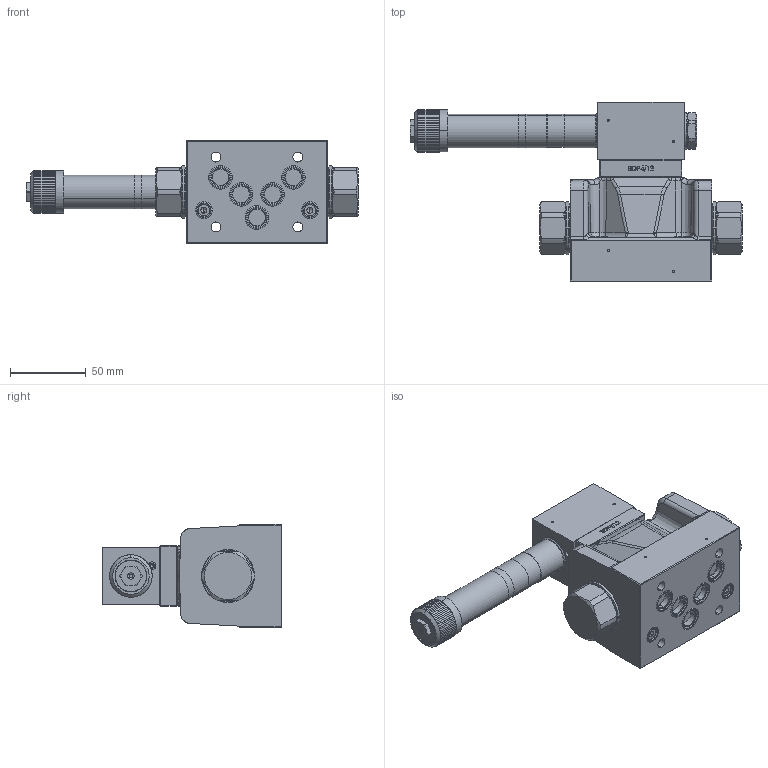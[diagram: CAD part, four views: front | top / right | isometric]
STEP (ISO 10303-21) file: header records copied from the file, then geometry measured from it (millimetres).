
FILE_DESCRIPTION (( 'STEP AP214' ), '1' );
FILE_NAME ('WVZFA10-4_2-Aside-ae_xi_xe_ti.STEP', '2019-06-26T07:02:10', ( '' ), ( '' ), 'SwSTEP 2.0', 'SolidWorks 2018', '' );
FILE_SCHEMA (( 'AUTOMOTIVE_DESIGN' ));
Length unit declared in the file: millimetre
Products named in the file (1): WVZFA10-4_2-Aside-ae_xi_xe_ti
Bounding box: 219.05 x 118.6 x 68 mm (x, y, z)
Volume: 548432.5 mm3; surface area: 78362.7 mm2
Topology: 11 solids, 13 shells, 1486 faces, 3760 edges, 2386 vertices
Faces by surface type: plane 648, cylinder 391, bspline 226, cone 140, torus 81
Entity records: 69292 total; most frequent: CARTESIAN_POINT 18939, ORIENTED_EDGE 7480, DIRECTION 6544, EDGE_CURVE 3740, VERTEX_POINT 2386, AXIS2_PLACEMENT_3D 2370, LINE 1804, VECTOR 1804
